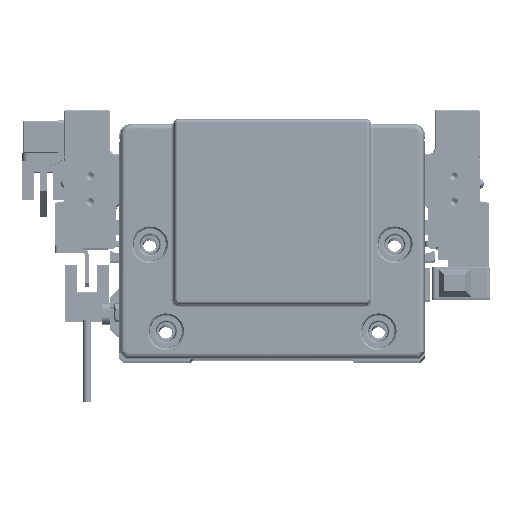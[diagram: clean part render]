
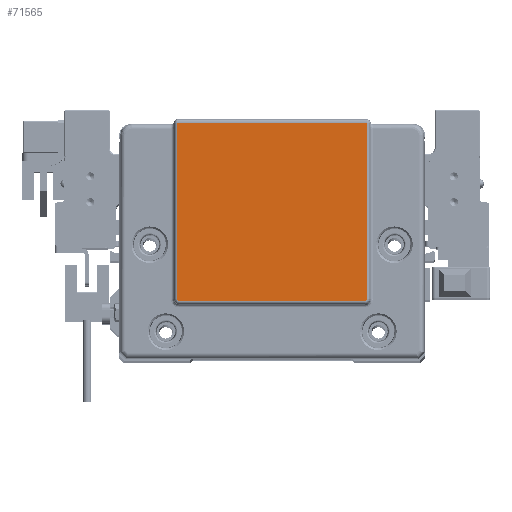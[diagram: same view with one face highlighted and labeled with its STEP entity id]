
A CAD part, top view. The second image highlights one B-rep face of the part: STEP entity #71565.
In plain terms, the highlighted planar face has unit normal (0, 0, 1) as drawn and (0, 0, -1) by its records, which use the part's own axes.
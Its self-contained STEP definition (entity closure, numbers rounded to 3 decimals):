
#179 = EDGE_CURVE ( 'NONE', #67533, #46640, #44328, .T. ) ;
#3315 = LINE ( 'NONE', #49028, #60166 ) ;
#3364 = EDGE_CURVE ( 'NONE', #60035, #68799, #23738, .T. ) ;
#3876 = CARTESIAN_POINT ( 'NONE',  ( -29.435, -18.732, -2. ) ) ;
#4437 = B_SPLINE_CURVE_WITH_KNOTS ( 'NONE', 3,
 ( #59586, #25452, #48323, #71186, #32543, #26918, #67776, #38525, #56170, #61041, #50908, #38154, #67027, #16418, #22408, #20908, #11197, #5565, #10818, #44515, #9708, #27683, #15314, #61422, #55419 ),
 .UNSPECIFIED., .F., .F.,
 ( 4, 2, 1, 1, 1, 1, 2, 2, 2, 2, 2, 1, 2, 2, 4 ),
 ( 0., 0.25, 0.375, 0.438, 0.469, 0.484, 0.492, 0.5, 0.625, 0.688, 0.719, 0.734, 0.742, 0.75, 1. ),
 .UNSPECIFIED. ) ;
#5365 = CARTESIAN_POINT ( 'NONE',  ( -28.988, -19.232, -2. ) ) ;
#5565 = CARTESIAN_POINT ( 'NONE',  ( 29.386, -18.948, -2. ) ) ;
#6714 = ORIENTED_EDGE ( 'NONE', *, *, #35014, .F. ) ;
#7369 = VECTOR ( 'NONE', #73609, 1000. ) ;
#9708 = CARTESIAN_POINT ( 'NONE',  ( 29.397, -18.923, -2. ) ) ;
#10616 = CARTESIAN_POINT ( 'NONE',  ( -29.289, -19.086, -2. ) ) ;
#10818 = CARTESIAN_POINT ( 'NONE',  ( 29.391, -18.939, -2. ) ) ;
#11197 = CARTESIAN_POINT ( 'NONE',  ( 29.378, -18.966, -2. ) ) ;
#11236 = EDGE_CURVE ( 'NONE', #61323, #60035, #3315, .T. ) ;
#13234 = VECTOR ( 'NONE', #46590, 1000. ) ;
#15177 = PLANE ( 'NONE',  #22260 ) ;
#15314 = CARTESIAN_POINT ( 'NONE',  ( 29.427, -18.849, -2. ) ) ;
#15846 = CARTESIAN_POINT ( 'NONE',  ( -29.126, -19.195, -2. ) ) ;
#16418 = CARTESIAN_POINT ( 'NONE',  ( 29.343, -19.023, -2. ) ) ;
#16596 = CARTESIAN_POINT ( 'NONE',  ( -29.142, -19.188, -2. ) ) ;
#16964 = CARTESIAN_POINT ( 'NONE',  ( -29.308, -19.065, -2. ) ) ;
#19004 = VECTOR ( 'NONE', #23323, 1000. ) ;
#19338 = FACE_OUTER_BOUND ( 'NONE', #30461, .T. ) ;
#20908 = CARTESIAN_POINT ( 'NONE',  ( 29.372, -18.977, -2. ) ) ;
#21083 = CARTESIAN_POINT ( 'NONE',  ( -29.121, -19.196, -2. ) ) ;
#22207 = CARTESIAN_POINT ( 'NONE',  ( -29.209, -19.151, -2. ) ) ;
#22260 = AXIS2_PLACEMENT_3D ( 'NONE', #42908, #42543, #37662 ) ;
#22408 = CARTESIAN_POINT ( 'NONE',  ( 29.354, -19.006, -2. ) ) ;
#23299 = CARTESIAN_POINT ( 'NONE',  ( -28.935, -19.232, -2. ) ) ;
#23323 = DIRECTION ( 'NONE',  ( 0., 1., 0. ) ) ;
#23738 = LINE ( 'NONE', #58590, #13234 ) ;
#25452 = CARTESIAN_POINT ( 'NONE',  ( 29.003, -19.232, -2. ) ) ;
#26726 = CARTESIAN_POINT ( 'NONE',  ( -29.294, -19.08, -2. ) ) ;
#26918 = CARTESIAN_POINT ( 'NONE',  ( 29.247, -19.124, -2. ) ) ;
#27100 = CARTESIAN_POINT ( 'NONE',  ( -29.421, -18.866, -2. ) ) ;
#27683 = CARTESIAN_POINT ( 'NONE',  ( 29.399, -18.919, -2. ) ) ;
#29174 = EDGE_CURVE ( 'NONE', #67533, #68799, #4437, .T. ) ;
#30168 = CARTESIAN_POINT ( 'NONE',  ( 28.935, -19.232, -2. ) ) ;
#30291 = CARTESIAN_POINT ( 'NONE',  ( 29.435, -18.732, -2. ) ) ;
#30427 = LINE ( 'NONE', #51829, #19004 ) ;
#30461 = EDGE_LOOP ( 'NONE', ( #73130, #57547, #30909, #64103, #56017, #6714 ) ) ;
#30909 = ORIENTED_EDGE ( 'NONE', *, *, #3364, .T. ) ;
#32543 = CARTESIAN_POINT ( 'NONE',  ( 29.201, -19.157, -2. ) ) ;
#33465 = CARTESIAN_POINT ( 'NONE',  ( -29.151, -19.183, -2. ) ) ;
#34608 = CARTESIAN_POINT ( 'NONE',  ( 0., -19.232, -2. ) ) ;
#35014 = EDGE_CURVE ( 'NONE', #73806, #46640, #46687, .T. ) ;
#37662 = DIRECTION ( 'NONE',  ( -1., 0., 0. ) ) ;
#38154 = CARTESIAN_POINT ( 'NONE',  ( 29.296, -19.079, -2. ) ) ;
#38525 = CARTESIAN_POINT ( 'NONE',  ( 29.279, -19.096, -2. ) ) ;
#39081 = CARTESIAN_POINT ( 'NONE',  ( -29.282, -19.093, -2. ) ) ;
#39461 = CARTESIAN_POINT ( 'NONE',  ( -29.051, -19.224, -2. ) ) ;
#42543 = DIRECTION ( 'NONE',  ( 0., 0., -1. ) ) ;
#42908 = CARTESIAN_POINT ( 'NONE',  ( 0., 0., -2. ) ) ;
#44328 = LINE ( 'NONE', #34608, #7369 ) ;
#44515 = CARTESIAN_POINT ( 'NONE',  ( 29.395, -18.93, -2. ) ) ;
#45067 = CARTESIAN_POINT ( 'NONE',  ( -29.169, -19.175, -2. ) ) ;
#46590 = DIRECTION ( 'NONE',  ( 0., -1., 0. ) ) ;
#46640 = VERTEX_POINT ( 'NONE', #23299 ) ;
#46687 = B_SPLINE_CURVE_WITH_KNOTS ( 'NONE', 3,
 ( #3876, #67573, #27100, #49962, #67206, #73594, #16964, #72838, #26726, #73215, #10616, #39081, #49586, #62710, #22207, #73974, #45067, #33465, #16596, #72460, #15846, #21083, #39461, #5365, #51090 ),
 .UNSPECIFIED., .F., .F.,
 ( 4, 2, 1, 1, 1, 1, 2, 2, 2, 2, 2, 1, 2, 2, 4 ),
 ( 0., 0.25, 0.375, 0.437, 0.469, 0.484, 0.492, 0.5, 0.625, 0.687, 0.719, 0.734, 0.742, 0.75, 1. ),
 .UNSPECIFIED. ) ;
#48323 = CARTESIAN_POINT ( 'NONE',  ( 29.069, -19.218, -2. ) ) ;
#49028 = CARTESIAN_POINT ( 'NONE',  ( 0., 36.185, -2. ) ) ;
#49586 = CARTESIAN_POINT ( 'NONE',  ( -29.266, -19.109, -2. ) ) ;
#49962 = CARTESIAN_POINT ( 'NONE',  ( -29.383, -18.956, -2. ) ) ;
#50636 = CARTESIAN_POINT ( 'NONE',  ( -29.435, -18.732, -2. ) ) ;
#50908 = CARTESIAN_POINT ( 'NONE',  ( 29.288, -19.086, -2. ) ) ;
#51090 = CARTESIAN_POINT ( 'NONE',  ( -28.935, -19.232, -2. ) ) ;
#51829 = CARTESIAN_POINT ( 'NONE',  ( -29.435, 0., -2. ) ) ;
#53564 = DIRECTION ( 'NONE',  ( 1., 0., 0. ) ) ;
#55419 = CARTESIAN_POINT ( 'NONE',  ( 29.435, -18.732, -2. ) ) ;
#56017 = ORIENTED_EDGE ( 'NONE', *, *, #179, .T. ) ;
#56170 = CARTESIAN_POINT ( 'NONE',  ( 29.283, -19.092, -2. ) ) ;
#57547 = ORIENTED_EDGE ( 'NONE', *, *, #11236, .T. ) ;
#58212 = EDGE_CURVE ( 'NONE', #73806, #61323, #30427, .T. ) ;
#58590 = CARTESIAN_POINT ( 'NONE',  ( 29.435, 0., -2. ) ) ;
#59586 = CARTESIAN_POINT ( 'NONE',  ( 28.935, -19.232, -2. ) ) ;
#60035 = VERTEX_POINT ( 'NONE', #68542 ) ;
#60166 = VECTOR ( 'NONE', #53564, 1000. ) ;
#61041 = CARTESIAN_POINT ( 'NONE',  ( 29.286, -19.089, -2. ) ) ;
#61323 = VERTEX_POINT ( 'NONE', #66274 ) ;
#61422 = CARTESIAN_POINT ( 'NONE',  ( 29.435, -18.785, -2. ) ) ;
#62710 = CARTESIAN_POINT ( 'NONE',  ( -29.226, -19.14, -2. ) ) ;
#64103 = ORIENTED_EDGE ( 'NONE', *, *, #29174, .F. ) ;
#66274 = CARTESIAN_POINT ( 'NONE',  ( -29.435, 36.185, -2. ) ) ;
#67027 = CARTESIAN_POINT ( 'NONE',  ( 29.312, -19.063, -2. ) ) ;
#67206 = CARTESIAN_POINT ( 'NONE',  ( -29.36, -18.998, -2. ) ) ;
#67533 = VERTEX_POINT ( 'NONE', #30168 ) ;
#67573 = CARTESIAN_POINT ( 'NONE',  ( -29.435, -18.801, -2. ) ) ;
#67776 = CARTESIAN_POINT ( 'NONE',  ( 29.268, -19.105, -2. ) ) ;
#68542 = CARTESIAN_POINT ( 'NONE',  ( 29.435, 36.185, -2. ) ) ;
#68799 = VERTEX_POINT ( 'NONE', #30291 ) ;
#71186 = CARTESIAN_POINT ( 'NONE',  ( 29.158, -19.18, -2. ) ) ;
#71565 = ADVANCED_FACE ( 'NONE', ( #19338 ), #15177, .T. ) ;
#72460 = CARTESIAN_POINT ( 'NONE',  ( -29.133, -19.192, -2. ) ) ;
#72838 = CARTESIAN_POINT ( 'NONE',  ( -29.299, -19.076, -2. ) ) ;
#73130 = ORIENTED_EDGE ( 'NONE', *, *, #58212, .T. ) ;
#73215 = CARTESIAN_POINT ( 'NONE',  ( -29.292, -19.083, -2. ) ) ;
#73594 = CARTESIAN_POINT ( 'NONE',  ( -29.326, -19.044, -2. ) ) ;
#73609 = DIRECTION ( 'NONE',  ( -1., 0., 0. ) ) ;
#73806 = VERTEX_POINT ( 'NONE', #50636 ) ;
#73974 = CARTESIAN_POINT ( 'NONE',  ( -29.18, -19.169, -2. ) ) ;
